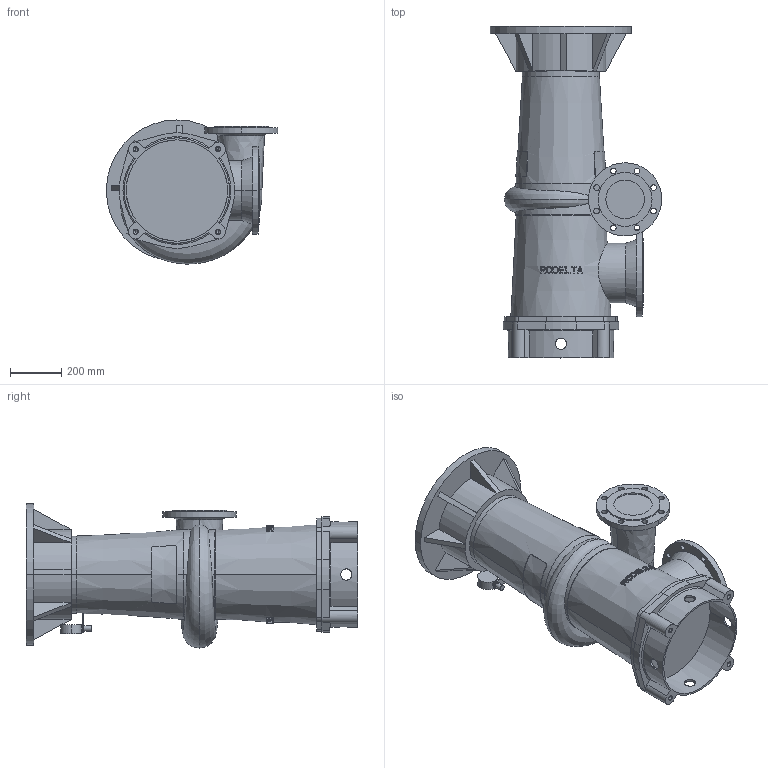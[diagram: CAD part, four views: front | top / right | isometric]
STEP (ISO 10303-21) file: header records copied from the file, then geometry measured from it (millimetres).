
FILE_DESCRIPTION((''),'2;1');
FILE_NAME('7410_VOOR_BLAD_ASM','2024-07-24T',('Lyritlocal'),(''),'PRO/ENGINEER BY PARAMETRIC TECHNOLOGY CORPORATION, 2016360','PRO/ENGINEER BY PARAMETRIC TECHNOLOGY CORPORATION, 2016360','');
FILE_SCHEMA(('CONFIG_CONTROL_DESIGN'));
Length unit declared in the file: millimetre
Products named in the file (3): 7410; 7410_VOET; 7410_VOOR_BLAD_ASM
Assembly tree (2 placements, depth 2):
  7410_VOOR_BLAD_ASM
    7410
    7410_VOET
Bounding box: 667.5 x 1292 x 561.43 mm (x, y, z)
Volume: 142858668 mm3; surface area: 3346063.5 mm2
Topology: 2 solids, 6 shells, 554 faces, 1491 edges, 983 vertices
Faces by surface type: plane 368, cylinder 138, cone 38, bspline 6, torus 4
Entity records: 19705 total; most frequent: CARTESIAN_POINT 6220, ORIENTED_EDGE 2950, DIRECTION 2529, EDGE_CURVE 1483, VERTEX_POINT 983, AXIS2_PLACEMENT_3D 961, EDGE_LOOP 646, VECTOR 607
